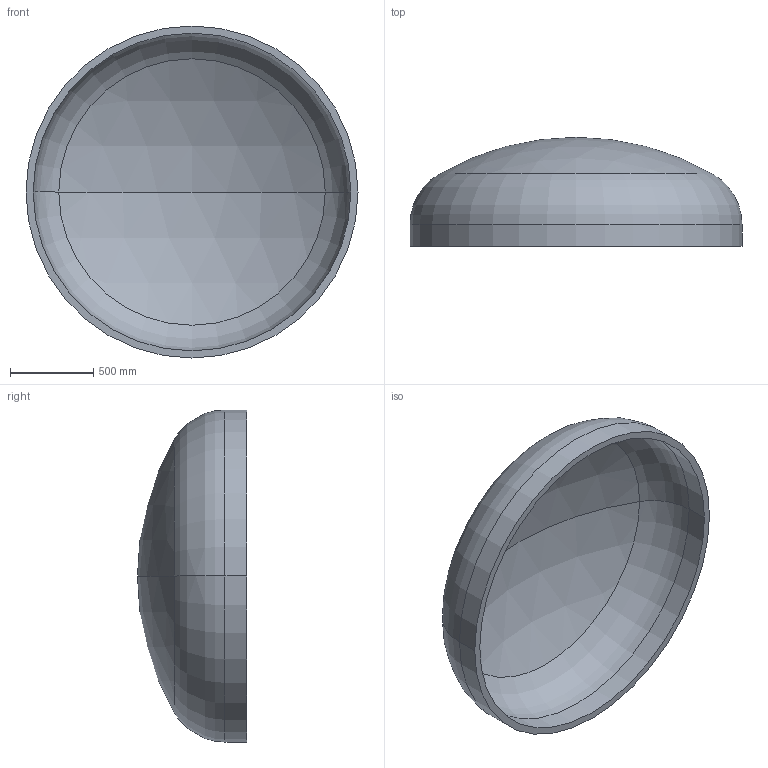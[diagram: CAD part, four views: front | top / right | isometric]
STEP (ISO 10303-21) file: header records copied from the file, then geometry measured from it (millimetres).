
FILE_DESCRIPTION (( 'STEP AP203' ), '1' );
FILE_NAME ('DIN 28013 Korbbogenform_-_Boden DIN 28013 - 2000 x 130 - I - s=43.step', '2016-07-01T13:52:50', ( '' ), ( '' ), 'SwSTEP 2.0', 'SolidWorks 2013', '' );
FILE_SCHEMA (( 'CONFIG_CONTROL_DESIGN' ));
Length unit declared in the file: millimetre
Products named in the file (1): DIN 28013 Korbbogenform_-_Boden DIN 28013 - 2000 x 130 - I - s=43
Bounding box: 2000 x 656.98 x 2000 mm (x, y, z)
Volume: 216482449.2 mm3; surface area: 10337188.7 mm2
Topology: 1 solids, 1 shells, 13 faces, 24 edges, 14 vertices
Faces by surface type: torus 4, cylinder 4, sphere 4, plane 1
Entity records: 407 total; most frequent: DIRECTION 72, CARTESIAN_POINT 52, ORIENTED_EDGE 48, AXIS2_PLACEMENT_3D 34, EDGE_CURVE 24, CIRCLE 20, EDGE_LOOP 14, VERTEX_POINT 14
